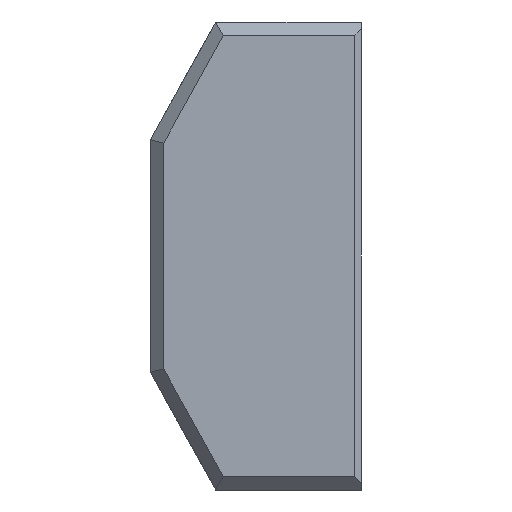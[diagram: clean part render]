
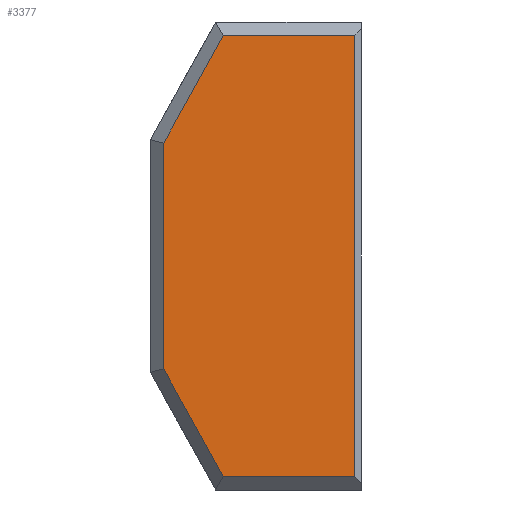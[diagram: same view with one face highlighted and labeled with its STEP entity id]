
A CAD part, front view. The second image highlights one B-rep face of the part: STEP entity #3377.
In plain terms, the highlighted planar face has unit normal (0, -1, 0).
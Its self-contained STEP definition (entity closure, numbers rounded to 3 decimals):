
#22 = EDGE_CURVE ( 'NONE', #3015, #2911, #136, .T. ) ;
#66 = VERTEX_POINT ( 'NONE', #2577 ) ;
#136 = LINE ( 'NONE', #158, #1929 ) ;
#158 = CARTESIAN_POINT ( 'NONE',  ( -5.377, 27.5, 1. ) ) ;
#204 = DIRECTION ( 'NONE',  ( 1., 0., 0. ) ) ;
#306 = VECTOR ( 'NONE', #3847, 1000. ) ;
#316 = ORIENTED_EDGE ( 'NONE', *, *, #2540, .T. ) ;
#439 = CARTESIAN_POINT ( 'NONE',  ( -15., 27.5, 26.314 ) ) ;
#596 = EDGE_LOOP ( 'NONE', ( #2772, #1633, #316, #2560, #1495, #659 ) ) ;
#638 = CARTESIAN_POINT ( 'NONE',  ( -15., 27.5, 35.5 ) ) ;
#657 = DIRECTION ( 'NONE',  ( -1., 0., 0. ) ) ;
#659 = ORIENTED_EDGE ( 'NONE', *, *, #742, .T. ) ;
#707 = CARTESIAN_POINT ( 'NONE',  ( -0.5, 27.5, 1. ) ) ;
#742 = EDGE_CURVE ( 'NONE', #1567, #66, #1898, .T. ) ;
#789 = EDGE_CURVE ( 'NONE', #3754, #902, #2180, .T. ) ;
#902 = VERTEX_POINT ( 'NONE', #1336 ) ;
#1050 = VECTOR ( 'NONE', #2198, 1000. ) ;
#1051 = AXIS2_PLACEMENT_3D ( 'NONE', #2982, #1433, #1107 ) ;
#1107 = DIRECTION ( 'NONE',  ( -1., 0., 0. ) ) ;
#1336 = CARTESIAN_POINT ( 'NONE',  ( -10.477, 27.5, 34.5 ) ) ;
#1433 = DIRECTION ( 'NONE',  ( 0., 1., 0. ) ) ;
#1453 = PLANE ( 'NONE',  #1051 ) ;
#1495 = ORIENTED_EDGE ( 'NONE', *, *, #2380, .T. ) ;
#1567 = VERTEX_POINT ( 'NONE', #439 ) ;
#1605 = CARTESIAN_POINT ( 'NONE',  ( -11.067, 27.5, 34.5 ) ) ;
#1633 = ORIENTED_EDGE ( 'NONE', *, *, #22, .T. ) ;
#1722 = LINE ( 'NONE', #1745, #2886 ) ;
#1742 = DIRECTION ( 'NONE',  ( -0.484, 0., -0.875 ) ) ;
#1745 = CARTESIAN_POINT ( 'NONE',  ( -0.5, 27.5, 35.5 ) ) ;
#1898 = LINE ( 'NONE', #638, #1050 ) ;
#1929 = VECTOR ( 'NONE', #204, 1000. ) ;
#2148 = VECTOR ( 'NONE', #657, 1000. ) ;
#2180 = LINE ( 'NONE', #1605, #2148 ) ;
#2198 = DIRECTION ( 'NONE',  ( 0., 0., -1. ) ) ;
#2375 = VECTOR ( 'NONE', #1742, 1000. ) ;
#2380 = EDGE_CURVE ( 'NONE', #902, #1567, #2569, .T. ) ;
#2540 = EDGE_CURVE ( 'NONE', #2911, #3754, #1722, .T. ) ;
#2560 = ORIENTED_EDGE ( 'NONE', *, *, #789, .T. ) ;
#2569 = LINE ( 'NONE', #2592, #2375 ) ;
#2577 = CARTESIAN_POINT ( 'NONE',  ( -15., 27.5, 9.186 ) ) ;
#2592 = CARTESIAN_POINT ( 'NONE',  ( -8.861, 27.5, 37.425 ) ) ;
#2603 = CARTESIAN_POINT ( 'NONE',  ( -23.887, 27.5, 25.273 ) ) ;
#2772 = ORIENTED_EDGE ( 'NONE', *, *, #3820, .T. ) ;
#2886 = VECTOR ( 'NONE', #3902, 1000. ) ;
#2911 = VERTEX_POINT ( 'NONE', #707 ) ;
#2945 = CARTESIAN_POINT ( 'NONE',  ( -10.477, 27.5, 1. ) ) ;
#2982 = CARTESIAN_POINT ( 'NONE',  ( -5.377, 27.5, 35.5 ) ) ;
#3015 = VERTEX_POINT ( 'NONE', #2945 ) ;
#3377 = ADVANCED_FACE ( 'NONE', ( #3574 ), #1453, .F. ) ;
#3547 = CARTESIAN_POINT ( 'NONE',  ( -0.5, 27.5, 34.5 ) ) ;
#3574 = FACE_OUTER_BOUND ( 'NONE', #596, .T. ) ;
#3754 = VERTEX_POINT ( 'NONE', #3547 ) ;
#3820 = EDGE_CURVE ( 'NONE', #66, #3015, #3866, .T. ) ;
#3847 = DIRECTION ( 'NONE',  ( 0.484, 0., -0.875 ) ) ;
#3866 = LINE ( 'NONE', #2603, #306 ) ;
#3902 = DIRECTION ( 'NONE',  ( 0., 0., 1. ) ) ;
